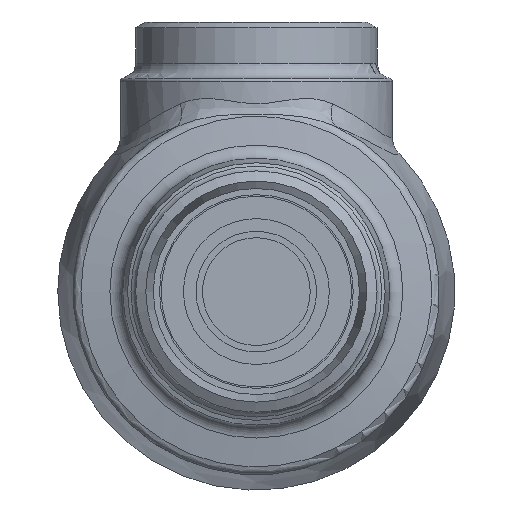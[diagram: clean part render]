
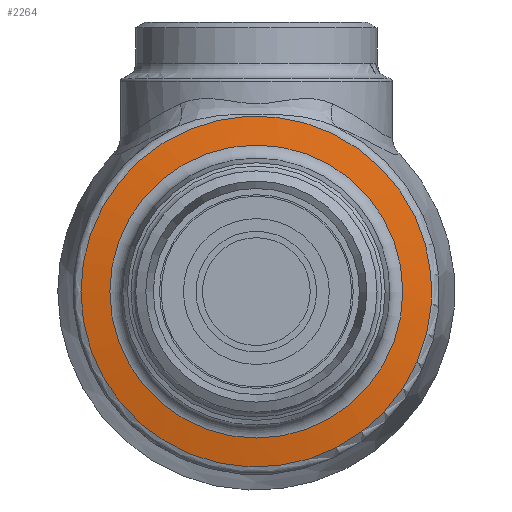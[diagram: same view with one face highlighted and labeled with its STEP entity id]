
A CAD part, front view. The second image highlights one B-rep face of the part: STEP entity #2264.
In plain terms, the highlighted conical face has half-angle 80 degrees and reference radius 50.755 mm.
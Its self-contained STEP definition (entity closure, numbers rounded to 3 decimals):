
#367=FACE_BOUND('',#844,.T.);
#510=CONICAL_SURFACE('',#2498,50.755,80.);
#634=FACE_OUTER_BOUND('',#843,.T.);
#843=EDGE_LOOP('',(#1837));
#844=EDGE_LOOP('',(#1838));
#1109=CIRCLE('',#2461,55.314);
#1126=CIRCLE('',#2497,46.197);
#1282=VERTEX_POINT('',#4210);
#1297=VERTEX_POINT('',#4261);
#1503=EDGE_CURVE('',#1282,#1282,#1109,.T.);
#1520=EDGE_CURVE('',#1297,#1297,#1126,.T.);
#1837=ORIENTED_EDGE('',*,*,#1503,.F.);
#1838=ORIENTED_EDGE('',*,*,#1520,.T.);
#2264=ADVANCED_FACE('',(#634,#367),#510,.T.);
#2461=AXIS2_PLACEMENT_3D('',#4211,#2908,#2909);
#2497=AXIS2_PLACEMENT_3D('',#4262,#2980,#2981);
#2498=AXIS2_PLACEMENT_3D('',#4263,#2982,#2983);
#2908=DIRECTION('center_axis',(-1.,0.,0.));
#2909=DIRECTION('ref_axis',(0.,0.,1.));
#2980=DIRECTION('center_axis',(-1.,0.,0.));
#2981=DIRECTION('ref_axis',(0.,0.,1.));
#2982=DIRECTION('center_axis',(-1.,0.,0.));
#2983=DIRECTION('ref_axis',(0.,-1.,0.));
#4210=CARTESIAN_POINT('',(-41.28,-55.314,0.));
#4211=CARTESIAN_POINT('Origin',(-41.28,0.,0.));
#4261=CARTESIAN_POINT('',(-39.672,-46.197,0.));
#4262=CARTESIAN_POINT('Origin',(-39.672,0.,0.));
#4263=CARTESIAN_POINT('Origin',(-40.476,0.,0.));
